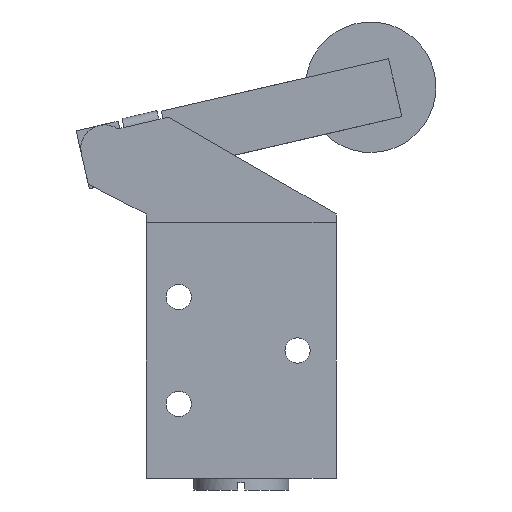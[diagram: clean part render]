
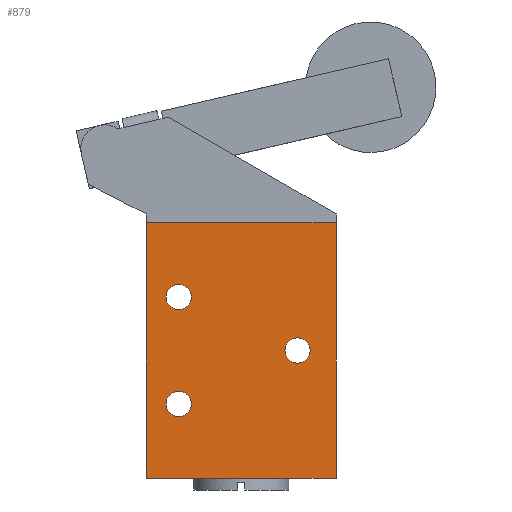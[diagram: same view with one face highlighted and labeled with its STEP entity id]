
A CAD part, front view. The second image highlights one B-rep face of the part: STEP entity #879.
In plain terms, the highlighted planar face has unit normal (0, -1, 0).
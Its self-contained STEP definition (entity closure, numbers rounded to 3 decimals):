
#402=CARTESIAN_POINT('',(-8.375,-9.,-9.0));
#403=VERTEX_POINT('',#402);
#404=CARTESIAN_POINT('',(-10.5,-9.,-9.0));
#405=DIRECTION('',(0.0,1.0,0.0));
#406=DIRECTION('',(-1.0,0.0,0.0));
#407=AXIS2_PLACEMENT_3D('',#404,#405,#406);
#408=CIRCLE('',#407,2.125);
#409=EDGE_CURVE('',#403,#403,#408,.T.);
#430=CARTESIAN_POINT('',(-8.375,-9.,9.0));
#431=VERTEX_POINT('',#430);
#432=CARTESIAN_POINT('',(-10.5,-9.,9.0));
#433=DIRECTION('',(0.0,1.0,0.0));
#434=DIRECTION('',(-1.0,0.0,0.0));
#435=AXIS2_PLACEMENT_3D('',#432,#433,#434);
#436=CIRCLE('',#435,2.125);
#437=EDGE_CURVE('',#431,#431,#436,.T.);
#458=CARTESIAN_POINT('',(11.625,-9.,0.));
#459=VERTEX_POINT('',#458);
#460=CARTESIAN_POINT('',(9.5,-9.,0.0));
#461=DIRECTION('',(0.0,1.0,0.0));
#462=DIRECTION('',(-1.0,0.0,0.0));
#463=AXIS2_PLACEMENT_3D('',#460,#461,#462);
#464=CIRCLE('',#463,2.125);
#465=EDGE_CURVE('',#459,#459,#464,.T.);
#774=CARTESIAN_POINT('',(-16.,-9.0,-21.5));
#775=VERTEX_POINT('',#774);
#790=CARTESIAN_POINT('',(16.,-9.,-21.5));
#791=VERTEX_POINT('',#790);
#798=CARTESIAN_POINT('',(-16.,-9.0,-21.5));
#799=DIRECTION('',(1.0,0.0,0.0));
#800=VECTOR('',#799,32.0);
#801=LINE('',#798,#800);
#802=EDGE_CURVE('',#775,#791,#801,.T.);
#817=CARTESIAN_POINT('',(16.,-9.,21.5));
#818=VERTEX_POINT('',#817);
#825=CARTESIAN_POINT('',(16.,-9.,21.5));
#826=DIRECTION('',(0.0,0.0,-1.0));
#827=VECTOR('',#826,43.0);
#828=LINE('',#825,#827);
#829=EDGE_CURVE('',#818,#791,#828,.T.);
#847=CARTESIAN_POINT('',(16.,-9.,0.0));
#848=DIRECTION('',(0.0,-1.0,0.0));
#849=DIRECTION('',(0.0,0.0,-1.0));
#850=AXIS2_PLACEMENT_3D('',#847,#848,#849);
#851=PLANE('',#850);
#852=CARTESIAN_POINT('',(-16.,-9.0,21.5));
#853=VERTEX_POINT('',#852);
#854=CARTESIAN_POINT('',(16.,-9.,21.5));
#855=DIRECTION('',(-1.0,0.0,0.0));
#856=VECTOR('',#855,32.0);
#857=LINE('',#854,#856);
#858=EDGE_CURVE('',#818,#853,#857,.T.);
#859=ORIENTED_EDGE('',*,*,#858,.T.);
#860=CARTESIAN_POINT('',(-16.,-9.0,21.5));
#861=DIRECTION('',(0.0,0.0,-1.0));
#862=VECTOR('',#861,43.0);
#863=LINE('',#860,#862);
#864=EDGE_CURVE('',#853,#775,#863,.T.);
#865=ORIENTED_EDGE('',*,*,#864,.T.);
#866=ORIENTED_EDGE('',*,*,#802,.T.);
#867=ORIENTED_EDGE('',*,*,#829,.F.);
#868=EDGE_LOOP('',(#859,#865,#866,#867));
#869=FACE_OUTER_BOUND('',#868,.T.);
#870=ORIENTED_EDGE('',*,*,#409,.T.);
#871=EDGE_LOOP('',(#870));
#872=FACE_BOUND('',#871,.T.);
#873=ORIENTED_EDGE('',*,*,#437,.T.);
#874=EDGE_LOOP('',(#873));
#875=FACE_BOUND('',#874,.T.);
#876=ORIENTED_EDGE('',*,*,#465,.T.);
#877=EDGE_LOOP('',(#876));
#878=FACE_BOUND('',#877,.T.);
#879=ADVANCED_FACE('',(#869,#872,#875,#878),#851,.T.);
